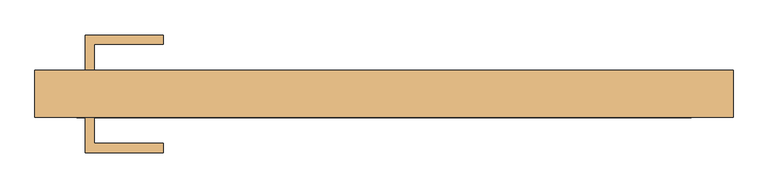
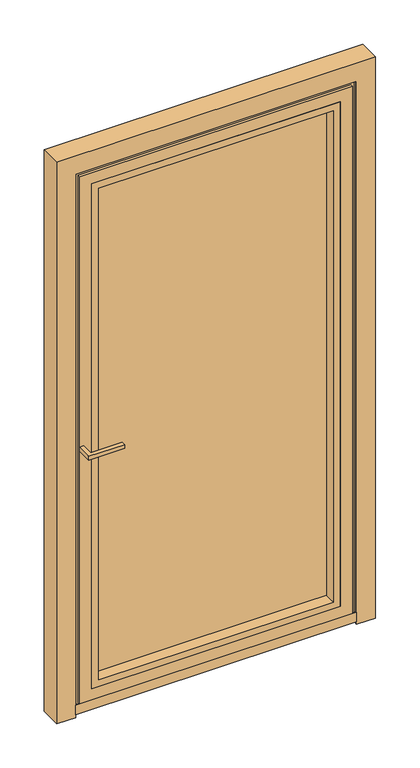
"""IFC4 building model written with IfcOpenShell, lengths in millimetres: door geometry, Reynaers_MasterLine 8_Door_Miter_Outward Opening_Single Vent : Reynaers_MasterLine 8_Door_Miter_Outward Opening_Single Vent."""

from ifc_helpers import new_model, si_unit, frame, origin, place, context, project, spatial, polyline, outline, extrude, faceted_brep, source, transform, mapped, element, save


def door_66f3c2dc(model_context):
    return source(origin(), model_context, "Body", "SolidModel", [
        extrude(outline(polyline([(-488.0, 90.0), (-488.0, 147.5), (-360.5, 147.5), (-360.5, 132.5), (-473.0, 132.5), (-473.0, 90.0), (-488.0, 90.0)])), frame((0.0, 0.0, 1001.0), z_axis=(0.0, 0.0, 1.0), x_axis=(1.0, 0.0, 0.0)), (0.0, 0.0, 1.0), 15.0),
        extrude(outline(polyline([(-488.0, 13.0), (-473.0, 13.0), (-473.0, -29.5), (-360.5, -29.5), (-360.5, -44.5), (-488.0, -44.5), (-488.0, 13.0)])), frame((0.0, 0.0, 1001.0), z_axis=(0.0, 0.0, 1.0), x_axis=(1.0, 0.0, 0.0)), (0.0, 0.0, 1.0), 15.0),
        extrude(outline(polyline([(-501.5, 25.6999991), (-501.5, 45.4999991), (501.5, 45.4999991), (501.5, 25.6999991), (-501.5, 25.6999991)])), frame((0.0, 0.0, 7.9855576), z_axis=(0.0, 0.0, 1.0), x_axis=(1.0, 0.0, 0.0)), (0.0, 0.0, 1.0), 18.0144424),
        extrude(outline(polyline([(88.500001, -444.0), (88.500001, 444.0), (1993.999999, 444.0), (1993.999999, -444.0), (88.500001, -444.0)]), holes=[polyline([(113.5000014, 418.9999996), (113.5000014, -418.9999996), (1968.9999986, -418.9999996), (1968.9999986, 418.9999996), (113.5000014, 418.9999996)])]), frame((0.0, 13.0, 0.0), z_axis=(0.0, 1.0, 0.0), x_axis=(0.0, 0.0, 1.0)), (0.0, 0.0, 1.0), 42.0),
        extrude(outline(polyline([(501.5, 16.8), (501.5, 13.0), (-501.5, 13.0), (-501.5, 16.8), (501.5, 16.8)])), frame((0.0, 0.0, 11.0), z_axis=(0.0, 0.0, 1.0), x_axis=(1.0, 0.0, 0.0)), (0.0, 0.0, 1.0), 34.5),
        faceted_brep([(-501.5, 16.8173848, 0.0), (-501.5, 13.0, 0.0), (-570.0, 13.0, 0.0), (-570.0, 90.0, 0.0), (-527.5, 90.0, 0.0), (-527.5, 81.199607, 0.0), (-516.5, 81.199607, 0.0), (-516.5, 16.8173848, 0.0), (501.5, 16.8173848, 0.0), (516.5, 16.8173848, 0.0), (516.5, 81.199607, 0.0), (527.5, 81.199607, 0.0), (527.5, 90.0, 0.0), (570.0, 90.0, 0.0), (570.0, 13.0, 0.0), (501.5, 13.0, 0.0), (-501.5, 16.8173848, 2051.5), (-501.5, 13.0, 2051.5), (501.5, 13.0, 2051.5), (570.0, 13.0, 2120.0), (-570.0, 13.0, 2120.0), (-570.0, 90.0, 2120.0), (570.0, 90.0, 2120.0), (527.5, 90.0, 2077.5), (-527.5, 90.0, 2077.5), (-527.5, 81.199607, 2077.5), (527.5, 81.199607, 2077.5), (516.5, 81.199607, 2066.5), (-516.5, 81.199607, 2066.5), (-516.5, 16.8173848, 2066.5), (516.5, 16.8173848, 2066.5), (501.5, 16.8173848, 2051.5)], [[[0, 1, 2, 3, 4, 5, 6, 7]], [[8, 9, 10, 11, 12, 13, 14, 15]], [[1, 0, 16, 17]], [[2, 1, 17, 18, 15, 14, 19, 20]], [[3, 2, 20, 21]], [[4, 3, 21, 22, 13, 12, 23, 24]], [[5, 4, 24, 25]], [[6, 5, 25, 26, 11, 10, 27, 28]], [[7, 6, 28, 29]], [[0, 7, 29, 30, 9, 8, 31, 16]], [[17, 16, 31, 18]], [[21, 20, 19, 22]], [[25, 24, 23, 26]], [[29, 28, 27, 30]], [[18, 31, 8, 15]], [[22, 19, 14, 13]], [[26, 23, 12, 11]], [[30, 27, 10, 9]]]),
        faceted_brep([(-487.0, 21.7999904, 2037.0), (-487.0, 13.0, 2037.0), (487.0, 13.0, 2037.0), (487.0, 21.7999904, 2037.0), (-497.9999989, 86.1999883, 2047.9999989), (-497.9999989, 21.7999904, 2047.9999989), (497.9999989, 21.7999904, 2047.9999989), (497.9999989, 86.1999883, 2047.9999989), (-521.5, 90.0, 2071.5), (-521.5, 86.1999883, 2071.5), (521.5, 86.1999883, 2071.5), (521.5, 90.0, 2071.5), (-417.0, 85.9999902, 1967.0), (-417.0, 90.0, 1967.0), (417.0, 90.0, 1967.0), (417.0, 85.9999902, 1967.0), (-443.999999, 13.0, 1993.999999), (-443.999999, 85.9999902, 1993.999999), (443.999999, 85.9999902, 1993.999999), (443.999999, 13.0, 1993.999999), (487.0, 13.0, 45.5), (487.0, 21.7999904, 45.5), (497.9999989, 21.7999904, 34.5000011), (497.9999989, 86.1999883, 34.5000011), (521.5, 86.1999883, 11.0), (521.5, 90.0, 11.0), (417.0, 90.0, 115.5), (417.0, 85.9999902, 115.5), (443.999999, 85.9999902, 88.500001), (443.999999, 13.0, 88.500001), (-487.0, 21.7999904, 45.5), (-487.0, 13.0, 45.5), (-497.9999989, 86.1999883, 34.5000011), (-497.9999989, 21.7999904, 34.5000011), (-521.5, 90.0, 11.0), (-521.5, 86.1999883, 11.0), (-417.0, 85.9999902, 115.5), (-417.0, 90.0, 115.5), (-443.999999, 13.0, 88.500001), (-443.999999, 85.9999902, 88.500001)], [[[0, 1, 2, 3]], [[4, 5, 6, 7]], [[8, 9, 10, 11]], [[12, 13, 14, 15]], [[16, 17, 18, 19]], [[3, 2, 20, 21]], [[7, 6, 22, 23]], [[11, 10, 24, 25]], [[15, 14, 26, 27]], [[19, 18, 28, 29]], [[30, 31, 1, 0]], [[32, 33, 5, 4]], [[34, 35, 9, 8]], [[36, 37, 13, 12]], [[38, 39, 17, 16]], [[21, 20, 31, 30]], [[33, 22, 6, 5], [21, 30, 0, 3]], [[23, 22, 33, 32]], [[35, 24, 10, 9], [23, 32, 4, 7]], [[25, 24, 35, 34]], [[25, 34, 8, 11], [37, 26, 14, 13]], [[27, 26, 37, 36]], [[39, 28, 18, 17], [27, 36, 12, 15]], [[29, 28, 39, 38]], [[31, 20, 2, 1], [29, 38, 16, 19]]]),
        extrude(outline(polyline([(436.0, 55.0), (-436.0, 55.0), (-436.0, 82.0), (436.0, 82.0), (436.0, 55.0)])), frame((0.0, 0.0, 96.5), z_axis=(0.0, 0.0, 1.0), x_axis=(1.0, 0.0, 0.0)), (0.0, 0.0, 1.0), 1889.5),
    ])


if __name__ == "__main__":
    model = new_model("IFC4")
    model_context = context("Model", 3, world=origin())
    ifc_project = project(units=[si_unit("LENGTHUNIT", "METRE", prefix="MILLI")], contexts=[model_context])
    site = spatial("IfcSite", under=ifc_project)
    building = spatial("IfcBuilding", under=site)
    placement = place(None, origin())
    door_shape = door_66f3c2dc(model_context)
    element("IfcDoor", 1, ObjectType="Reynaers_MasterLine 8_Door_Miter_Outward Opening_Single Vent : Reynaers_MasterLine 8_Door_Miter_Outward Opening_Single Vent", at=placement, inside=building, context=model_context, shape_type="MappedRepresentation", body=[
        mapped(door_shape, transform((0.0, 0.0, 0.0), x_axis=(1.0, 0.0, 0.0), y_axis=(0.0, 1.0, 0.0), z_axis=(0.0, 0.0, 1.0))),
    ])
    save(model, "model.ifc")
